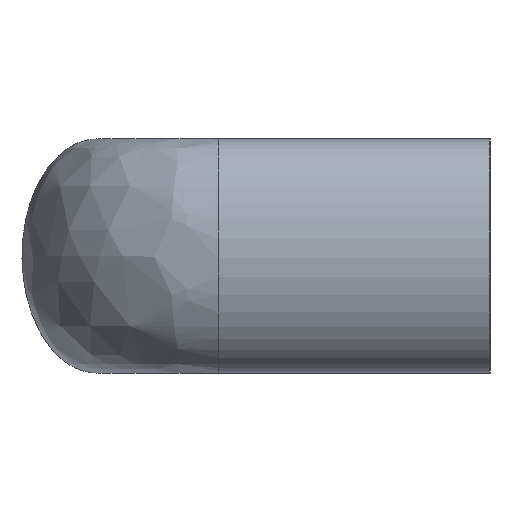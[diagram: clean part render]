
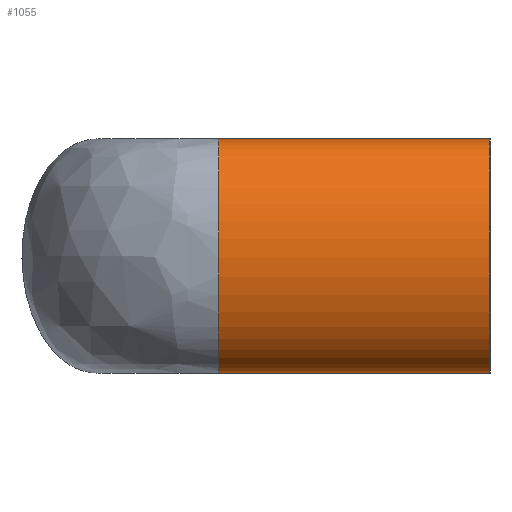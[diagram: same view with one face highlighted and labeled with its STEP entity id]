
A CAD part, left-side view. The second image highlights one B-rep face of the part: STEP entity #1055.
In plain terms, the highlighted free-form (B-spline) face has degree [3, 1] with [4, 2] control points.
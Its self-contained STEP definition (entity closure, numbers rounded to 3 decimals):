
#23 = VERTEX_POINT ( 'NONE', #1331 ) ;
#25 = ORIENTED_EDGE ( 'NONE', *, *, #960, .F. ) ;
#48 = VERTEX_POINT ( 'NONE', #1325 ) ;
#56 = ORIENTED_EDGE ( 'NONE', *, *, #984, .T. ) ;
#63 = LINE ( 'NONE', #1218, #760 ) ;
#127 = ORIENTED_EDGE ( 'NONE', *, *, #981, .T. ) ;
#129 = ORIENTED_EDGE ( 'NONE', *, *, #976, .F. ) ;
#130 = VERTEX_POINT ( 'NONE', #1337 ) ;
#187 = LINE ( 'NONE', #1289, #870 ) ;
#206 = FACE_OUTER_BOUND ( 'NONE', #334, .T. ) ;
#216 = VERTEX_POINT ( 'NONE', #1348 ) ;
#334 = EDGE_LOOP ( 'NONE', ( #25, #127, #56, #129 ) ) ;
#659 = CARTESIAN_POINT ( 'NONE',  ( -56., 29., 12.5 ) ) ;
#660 = CARTESIAN_POINT ( 'NONE',  ( -56., 0., 12.5 ) ) ;
#661 = CARTESIAN_POINT ( 'NONE',  ( -72., 29., 12.5 ) ) ;
#662 = CARTESIAN_POINT ( 'NONE',  ( -72., 0., 12.5 ) ) ;
#663 = CARTESIAN_POINT ( 'NONE',  ( -72., 29., -12.5 ) ) ;
#664 = CARTESIAN_POINT ( 'NONE',  ( -72., 0., -12.5 ) ) ;
#665 = CARTESIAN_POINT ( 'NONE',  ( -56., 29., -12.5 ) ) ;
#666 = CARTESIAN_POINT ( 'NONE',  ( -56., 0., -12.5 ) ) ;
#760 = VECTOR ( 'NONE', #1219, 1000. ) ;
#870 = VECTOR ( 'NONE', #1290, 1000. ) ;
#960 = EDGE_CURVE ( 'NONE', #48, #130, #63, .T. ) ;
#976 = EDGE_CURVE ( 'NONE', #130, #23, #1070, .T. ) ;
#981 = EDGE_CURVE ( 'NONE', #48, #216, #1069, .T. ) ;
#984 = EDGE_CURVE ( 'NONE', #216, #23, #187, .T. ) ;
#1055 = ADVANCED_FACE ( 'NONE', ( #206 ), #1088, .T. ) ;
#1069 =( BOUNDED_CURVE ( )  B_SPLINE_CURVE ( 3, ( #1278, #1279, #1280, #1281 ),
 .UNSPECIFIED., .F., .T. ) 
 B_SPLINE_CURVE_WITH_KNOTS ( ( 4, 4 ),
 ( 3.142, 6.283 ),
 .UNSPECIFIED. ) 
 CURVE ( )  GEOMETRIC_REPRESENTATION_ITEM ( )  RATIONAL_B_SPLINE_CURVE ( ( 1., 0.333, 0.333, 1. ) ) 
 REPRESENTATION_ITEM ( '' )  );
#1070 =( BOUNDED_CURVE ( )  B_SPLINE_CURVE ( 3, ( #1263, #1264, #1265, #1266 ),
 .UNSPECIFIED., .F., .T. ) 
 B_SPLINE_CURVE_WITH_KNOTS ( ( 4, 4 ),
 ( 3.142, 6.283 ),
 .UNSPECIFIED. ) 
 CURVE ( )  GEOMETRIC_REPRESENTATION_ITEM ( )  RATIONAL_B_SPLINE_CURVE ( ( 1., 0.333, 0.333, 1. ) ) 
 REPRESENTATION_ITEM ( '' )  );
#1088 =( BOUNDED_SURFACE ( )  B_SPLINE_SURFACE ( 3, 1, ( 
 ( #659, #660 ),
 ( #661, #662 ),
 ( #663, #664 ),
 ( #665, #666 ) ),
 .UNSPECIFIED., .F., .F., .F. ) 
 B_SPLINE_SURFACE_WITH_KNOTS ( ( 4, 4 ),
 ( 2, 2 ),
 ( 0., 1. ),
 ( 0., 1. ),
 .UNSPECIFIED. ) 
 GEOMETRIC_REPRESENTATION_ITEM ( )  RATIONAL_B_SPLINE_SURFACE ( (
 ( 1., 1.),
 ( 0.333, 0.333),
 ( 0.333, 0.333),
 ( 1., 1.) ) ) 
 REPRESENTATION_ITEM ( '' )  SURFACE ( )  );
#1218 = CARTESIAN_POINT ( 'NONE',  ( -56., 29., 12.5 ) ) ;
#1219 = DIRECTION ( 'NONE',  ( 0., -1., 0. ) ) ;
#1263 = CARTESIAN_POINT ( 'NONE',  ( -56., 0., 12.5 ) ) ;
#1264 = CARTESIAN_POINT ( 'NONE',  ( -72., 0., 12.5 ) ) ;
#1265 = CARTESIAN_POINT ( 'NONE',  ( -72., 0., -12.5 ) ) ;
#1266 = CARTESIAN_POINT ( 'NONE',  ( -56., 0., -12.5 ) ) ;
#1278 = CARTESIAN_POINT ( 'NONE',  ( -56., 29., 12.5 ) ) ;
#1279 = CARTESIAN_POINT ( 'NONE',  ( -72., 29., 12.5 ) ) ;
#1280 = CARTESIAN_POINT ( 'NONE',  ( -72., 29., -12.5 ) ) ;
#1281 = CARTESIAN_POINT ( 'NONE',  ( -56., 29., -12.5 ) ) ;
#1289 = CARTESIAN_POINT ( 'NONE',  ( -56., 29., -12.5 ) ) ;
#1290 = DIRECTION ( 'NONE',  ( 0., -1., 0. ) ) ;
#1325 = CARTESIAN_POINT ( 'NONE',  ( -56., 29., 12.5 ) ) ;
#1331 = CARTESIAN_POINT ( 'NONE',  ( -56., 0., -12.5 ) ) ;
#1337 = CARTESIAN_POINT ( 'NONE',  ( -56., 0., 12.5 ) ) ;
#1348 = CARTESIAN_POINT ( 'NONE',  ( -56., 29., -12.5 ) ) ;
